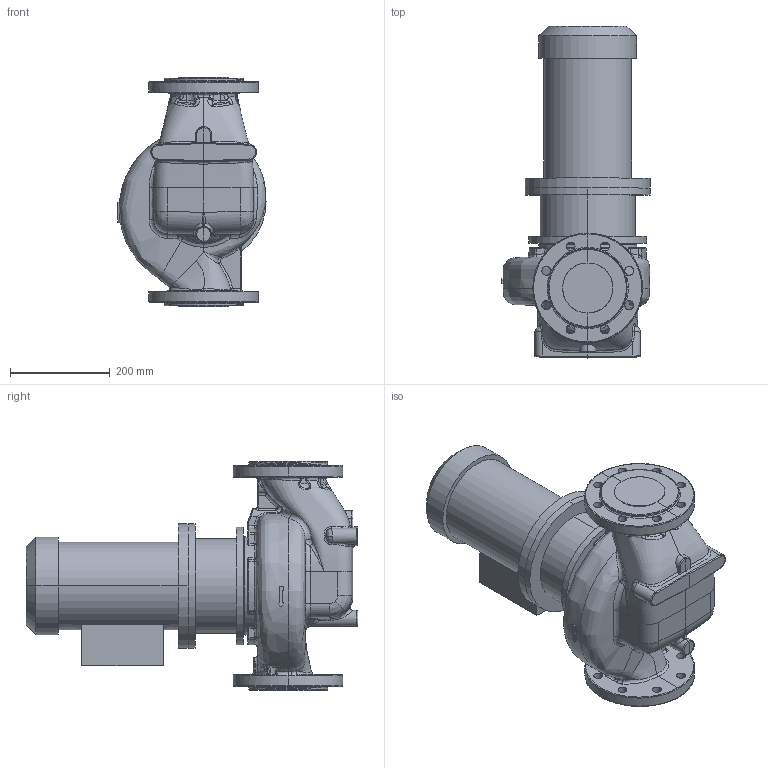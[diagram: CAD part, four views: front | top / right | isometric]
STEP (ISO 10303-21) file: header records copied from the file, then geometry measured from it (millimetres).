
FILE_DESCRIPTION (( 'STEP AP214' ), '1' );
FILE_NAME ('KRL 100-170-4-3.STEP', '2026-04-06T13:52:36', ( '' ), ( '' ), 'SwSTEP 2.0', 'SolidWorks 2016', '' );
FILE_SCHEMA (( 'AUTOMOTIVE_DESIGN' ));
Length unit declared in the file: millimetre
Products named in the file (1): KRL 100-170-4-3
Bounding box: 297 x 665.8 x 460 mm (x, y, z)
Volume: 28796659.9 mm3; surface area: 1130944.4 mm2
Topology: 4 solids, 4 shells, 668 faces, 1701 edges, 1010 vertices
Faces by surface type: bspline 330, cylinder 172, plane 114, cone 20, torus 16, sphere 16
Entity records: 62323 total; most frequent: CARTESIAN_POINT 42240, ORIENTED_EDGE 3338, DIRECTION 1787, EDGE_CURVE 1669, VERTEX_POINT 1010, AXIS2_PLACEMENT_3D 735, EDGE_LOOP 701, UNCERTAINTY_MEASURE_WITH_UNIT 674
